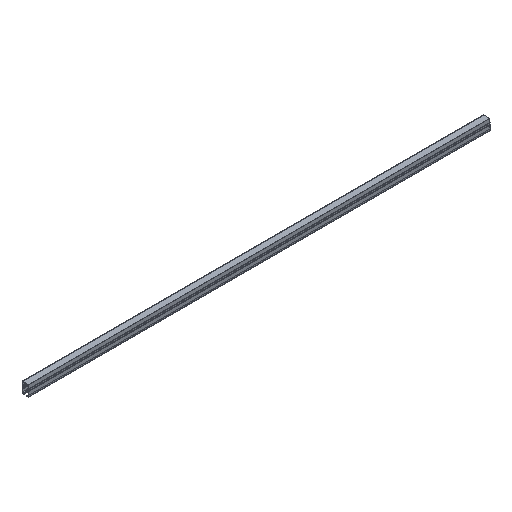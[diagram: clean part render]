
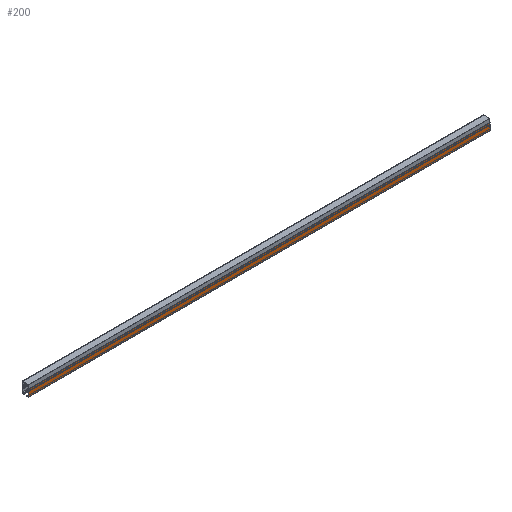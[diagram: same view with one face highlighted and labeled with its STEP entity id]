
A CAD part, isometric view. The second image highlights one B-rep face of the part: STEP entity #200.
In plain terms, the highlighted planar face has unit normal (0, -1, 0).
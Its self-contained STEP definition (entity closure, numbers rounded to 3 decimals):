
#200=ADVANCED_FACE('',(#444),#445,.T.);
#444=FACE_OUTER_BOUND('',#725,.T.);
#445=PLANE('',#726);
#725=EDGE_LOOP('',(#1262,#1263,#1264,#1265));
#726=AXIS2_PLACEMENT_3D('',#1266,#1267,#1268);
#1262=ORIENTED_EDGE('',*,*,#1889,.T.);
#1263=ORIENTED_EDGE('',*,*,#1890,.T.);
#1264=ORIENTED_EDGE('',*,*,#1891,.F.);
#1265=ORIENTED_EDGE('',*,*,#1892,.F.);
#1266=CARTESIAN_POINT('',(2500.0,0.,2.0));
#1267=DIRECTION('',(0.,-1.0,0.0));
#1268=DIRECTION('',(0.0,0.0,1.0));
#1889=EDGE_CURVE('',#2309,#2310,#2311,.T.);
#1890=EDGE_CURVE('',#2310,#2312,#2313,.T.);
#1891=EDGE_CURVE('',#2314,#2312,#2315,.T.);
#1892=EDGE_CURVE('',#2309,#2314,#2316,.T.);
#2309=VERTEX_POINT('',#2894);
#2310=VERTEX_POINT('',#2895);
#2311=LINE('',#2896,#2897);
#2312=VERTEX_POINT('',#2898);
#2313=LINE('',#2899,#2900);
#2314=VERTEX_POINT('',#2901);
#2315=LINE('',#2902,#2903);
#2316=LINE('',#2904,#2905);
#2894=CARTESIAN_POINT('',(2700.0,0.,2.0));
#2895=CARTESIAN_POINT('',(2700.0,0.,42.0));
#2896=CARTESIAN_POINT('',(2700.0,0.,2.0));
#2897=VECTOR('',#3487,1.0);
#2898=CARTESIAN_POINT('',(0.0,0.0,42.0));
#2899=CARTESIAN_POINT('',(2500.0,0.,42.0));
#2900=VECTOR('',#3488,1.0);
#2901=CARTESIAN_POINT('',(0.0,0.0,2.0));
#2902=CARTESIAN_POINT('',(0.0,0.0,2.0));
#2903=VECTOR('',#3489,1.0);
#2904=CARTESIAN_POINT('',(2500.0,0.,2.0));
#2905=VECTOR('',#3490,1.0);
#3487=DIRECTION('',(0.0,0.0,1.0));
#3488=DIRECTION('',(-1.0,0.,0.0));
#3489=DIRECTION('',(0.0,0.0,1.0));
#3490=DIRECTION('',(-1.0,0.,0.0));
